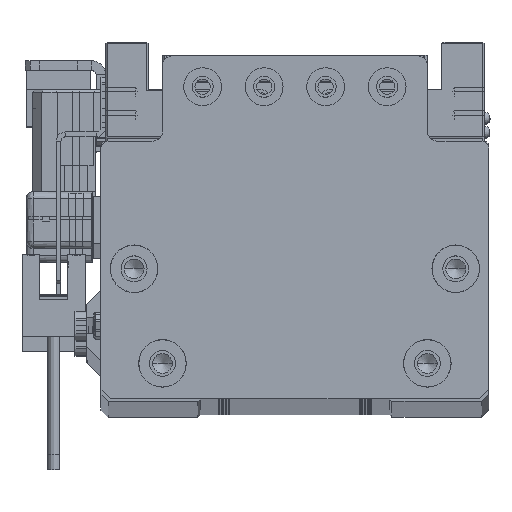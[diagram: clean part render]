
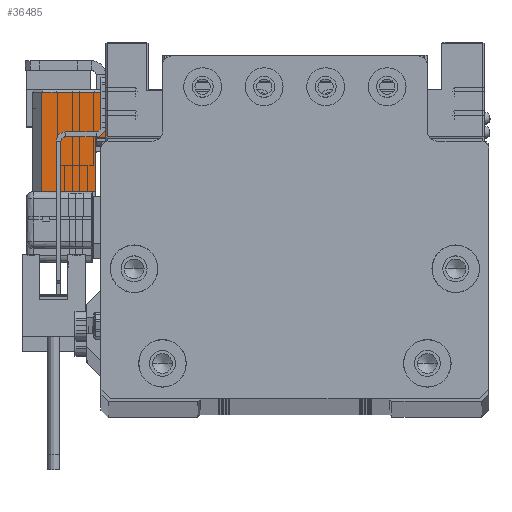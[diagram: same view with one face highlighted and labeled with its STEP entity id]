
A CAD part, top view. The second image highlights one B-rep face of the part: STEP entity #36485.
In plain terms, the highlighted planar face has unit normal (0, 0, 1) as drawn and (1, 0, 0) by its records, which use the part's own axes.
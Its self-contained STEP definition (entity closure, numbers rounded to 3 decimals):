
#689 = CARTESIAN_POINT ( 'NONE',  ( 17., 0.75, -15.5 ) ) ;
#1182 = EDGE_CURVE ( 'NONE', #52730, #50845, #72209, .T. ) ;
#1198 = AXIS2_PLACEMENT_3D ( 'NONE', #58364, #5604, #65634 ) ;
#1242 = ORIENTED_EDGE ( 'NONE', *, *, #33825, .T. ) ;
#1368 = LINE ( 'NONE', #71825, #52556 ) ;
#4168 = LINE ( 'NONE', #27314, #51268 ) ;
#5604 = DIRECTION ( 'NONE',  ( 1., 0., 0. ) ) ;
#7153 = VECTOR ( 'NONE', #32178, 1000. ) ;
#11575 = LINE ( 'NONE', #40855, #12108 ) ;
#12108 = VECTOR ( 'NONE', #35438, 1000. ) ;
#12747 = VECTOR ( 'NONE', #41400, 1000. ) ;
#14160 = ORIENTED_EDGE ( 'NONE', *, *, #39886, .T. ) ;
#14873 = ORIENTED_EDGE ( 'NONE', *, *, #34528, .F. ) ;
#17176 = PLANE ( 'NONE',  #1198 ) ;
#19095 = DIRECTION ( 'NONE',  ( 0., -1., 0. ) ) ;
#19479 = CARTESIAN_POINT ( 'NONE',  ( 17., -10.75, -13.3 ) ) ;
#24327 = EDGE_CURVE ( 'NONE', #73442, #52730, #4168, .T. ) ;
#27314 = CARTESIAN_POINT ( 'NONE',  ( 17., 0.75, -15.5 ) ) ;
#29800 = VECTOR ( 'NONE', #73361, 1000. ) ;
#29835 = LINE ( 'NONE', #35245, #12747 ) ;
#31442 = CARTESIAN_POINT ( 'NONE',  ( 17., -10.75, -15.5 ) ) ;
#32178 = DIRECTION ( 'NONE',  ( 0., -1., 0. ) ) ;
#32694 = DIRECTION ( 'NONE',  ( 0., 0., 1. ) ) ;
#33825 = EDGE_CURVE ( 'NONE', #46533, #54454, #1368, .T. ) ;
#34528 = EDGE_CURVE ( 'NONE', #50845, #54454, #11575, .T. ) ;
#34889 = FACE_OUTER_BOUND ( 'NONE', #50154, .T. ) ;
#35245 = CARTESIAN_POINT ( 'NONE',  ( 17., 10.25, -15.5 ) ) ;
#35438 = DIRECTION ( 'NONE',  ( 0., 0., 1. ) ) ;
#36485 = ADVANCED_FACE ( 'NONE', ( #34889 ), #17176, .T. ) ;
#39772 = VERTEX_POINT ( 'NONE', #70711 ) ;
#39886 = EDGE_CURVE ( 'NONE', #73442, #39772, #67210, .T. ) ;
#40855 = CARTESIAN_POINT ( 'NONE',  ( 17., -10.75, -15.5 ) ) ;
#41385 = EDGE_CURVE ( 'NONE', #39772, #46533, #29835, .T. ) ;
#41400 = DIRECTION ( 'NONE',  ( 0., 0., 1. ) ) ;
#45500 = ORIENTED_EDGE ( 'NONE', *, *, #24327, .F. ) ;
#46533 = VERTEX_POINT ( 'NONE', #65037 ) ;
#50154 = EDGE_LOOP ( 'NONE', ( #14160, #51778, #1242, #14873, #57083, #45500 ) ) ;
#50845 = VERTEX_POINT ( 'NONE', #71258 ) ;
#51268 = VECTOR ( 'NONE', #32694, 1000. ) ;
#51778 = ORIENTED_EDGE ( 'NONE', *, *, #41385, .T. ) ;
#52556 = VECTOR ( 'NONE', #19095, 1000. ) ;
#52730 = VERTEX_POINT ( 'NONE', #53019 ) ;
#53019 = CARTESIAN_POINT ( 'NONE',  ( 17., 0.75, -13.3 ) ) ;
#54454 = VERTEX_POINT ( 'NONE', #71778 ) ;
#57083 = ORIENTED_EDGE ( 'NONE', *, *, #1182, .F. ) ;
#58364 = CARTESIAN_POINT ( 'NONE',  ( 17., -10.75, -15.5 ) ) ;
#65037 = CARTESIAN_POINT ( 'NONE',  ( 17., 10.25, -2. ) ) ;
#65634 = DIRECTION ( 'NONE',  ( 0., 0., -1. ) ) ;
#67210 = LINE ( 'NONE', #31442, #29800 ) ;
#70711 = CARTESIAN_POINT ( 'NONE',  ( 17., 10.25, -15.5 ) ) ;
#71258 = CARTESIAN_POINT ( 'NONE',  ( 17., -10.75, -13.3 ) ) ;
#71778 = CARTESIAN_POINT ( 'NONE',  ( 17., -10.75, -2. ) ) ;
#71825 = CARTESIAN_POINT ( 'NONE',  ( 17., -10.75, -2. ) ) ;
#72209 = LINE ( 'NONE', #19479, #7153 ) ;
#73361 = DIRECTION ( 'NONE',  ( 0., 1., 0. ) ) ;
#73442 = VERTEX_POINT ( 'NONE', #689 ) ;
